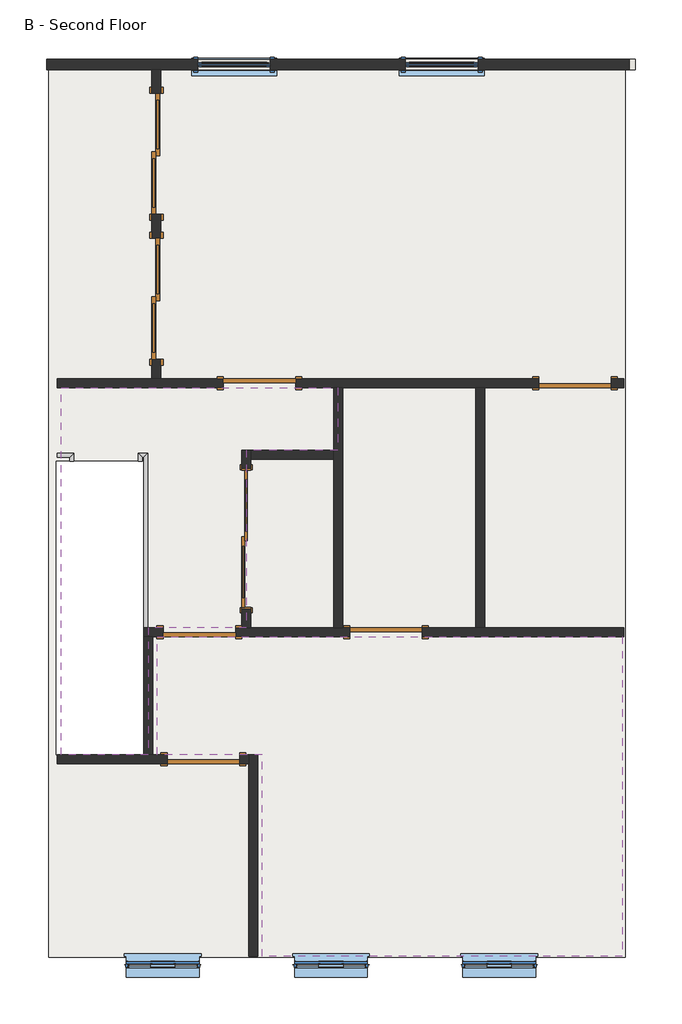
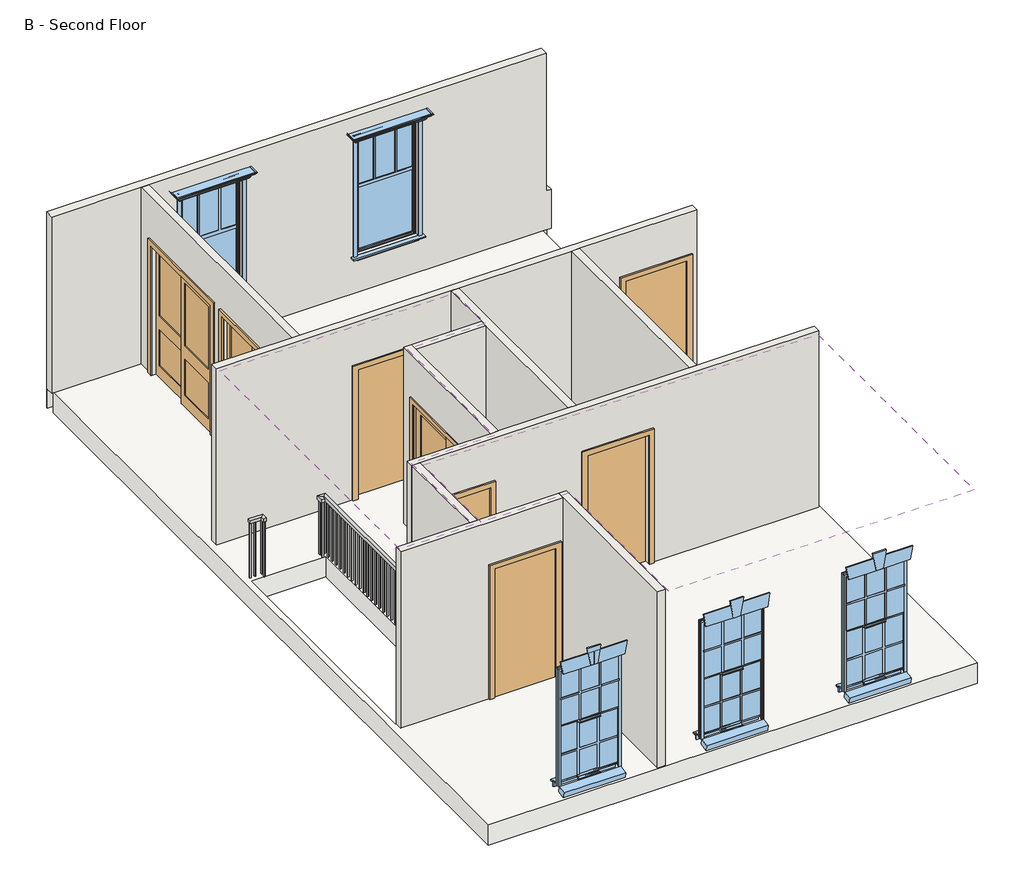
# One storey: 11 walls, 8 doors, 5 windows, 2 coverings, 2 railings, 1 slab.
"""IFC4 building model written with IfcOpenShell, lengths in millimetres."""

from ifc_helpers import new_model, si_unit, frame, origin, place, context, project, spatial, polyline, outline, extrude, faceted_brep, transform, mapped, element, save
from components import door_2e073e5e, door_5e62189b, door_17d80c48, door_2e7ec8be, craftsman_style_single_window_l_craftsman_style_single_78b914de, window_32c76565

model = new_model("IFC4")

# Units and contexts
model_context = context("Model", 3, world=origin())
ifc_project = project(units=[si_unit("LENGTHUNIT", "METRE", prefix="MILLI")], contexts=[model_context])

# Site, building, storey
site = spatial("IfcSite", under=ifc_project)
building = spatial("IfcBuilding", under=site)
storey = spatial("IfcBuildingStorey", under=building, Name="B - Second Floor", Elevation=3981.45)

# Coverings
placement = place(None, origin())
element("IfcCovering", 1, ObjectType="GWB on Furring", at=placement, inside=storey, context=model_context, shape_type="SweptSolid", body=[
    extrude(outline(polyline([(3167.5370514, -3096.8539462), (3167.5370514, -7122.7539462), (-1369.5379486, -7122.7539462), (-1369.5379486, -4582.7539462), (-2690.3379486, -4582.7539462), (-2690.3379486, -3096.8539462), (3167.5370514, -3096.8539462)])), frame((0.0, 0.0, 6699.25), z_axis=(0.0, 0.0, 1.0), x_axis=(1.0, 0.0, 0.0)), (0.0, 0.0, 1.0), 31.75),
])
element("IfcCovering", 2, ObjectType="GWB on Furring", at=placement, inside=storey, context=model_context, shape_type="SweptSolid", body=[
    extrude(outline(polyline([(-3896.8379486, -4582.7539462), (-3896.8379486, 40.0460538), (-413.8629486, 40.0460538), (-413.8629486, -747.3539462), (-1569.5629486, -747.3539462), (-1569.5629486, -2982.5539462), (-2804.6379486, -2982.5539462), (-2804.6379486, -4582.7539462), (-3896.8379486, -4582.7539462)])), frame((0.0, 0.0, 6699.25), z_axis=(0.0, 0.0, 1.0), x_axis=(1.0, 0.0, 0.0)), (0.0, 0.0, 1.0), 31.75),
])

# Doors
door_shape = door_2e073e5e(model_context)
element("IfcDoor", 3, ObjectType="Door-Interior-Double-Sliding-2_Panel-Wood : 68\" x 80\"", at=placement, inside=storey, context=model_context, shape_type="MappedRepresentation", body=[
    mapped(door_shape, transform((-1569.5629486, -1864.9539462, 3981.45), x_axis=(0.0, 1.0, 0.0), y_axis=(-1.0, 0.0, 0.0), z_axis=(0.0, 0.0, 1.0))),
])
door_2_shape = door_5e62189b(model_context)
element("IfcDoor", 4, ObjectType="Single-Flush : 36\" x 80\"", at=placement, inside=storey, context=model_context, shape_type="MappedRepresentation", body=[
    mapped(door_2_shape, transform((-2109.3129486, -4639.9039462, 3981.45), x_axis=(1.0, 0.0, 0.0), y_axis=(0.0, 1.0, 0.0), z_axis=(0.0, 0.0, 1.0))),
])
element("IfcDoor", 5, ObjectType="Single-Flush : 36\" x 80\"", at=placement, inside=storey, context=model_context, shape_type="MappedRepresentation", body=[
    mapped(door_2_shape, transform((-1402.8754486, 97.1960538, 3981.45), x_axis=(-1.0, 0.0, 0.0), y_axis=(0.0, -1.0, 0.0), z_axis=(0.0, 0.0, 1.0))),
])
element("IfcDoor", 6, ObjectType="Single-Flush : 36\" x 80\"", at=placement, inside=storey, context=model_context, shape_type="MappedRepresentation", body=[
    mapped(door_2_shape, transform((192.5620514, -3039.7039462, 3981.45), x_axis=(-1.0, 0.0, 0.0), y_axis=(0.0, -1.0, 0.0), z_axis=(0.0, 0.0, 1.0))),
])
element("IfcDoor", 7, ObjectType="Single-Flush : 36\" x 80\"", at=placement, inside=storey, context=model_context, shape_type="MappedRepresentation", body=[
    mapped(door_2_shape, transform((2570.6370514, 97.1960538, 3981.45), x_axis=(1.0, 0.0, 0.0), y_axis=(0.0, 1.0, 0.0), z_axis=(0.0, 0.0, 1.0))),
])
door_3_shape = door_17d80c48(model_context)
element("IfcDoor", 8, ObjectType="Single-Flush : 36\" x 80\"", at=placement, inside=storey, context=model_context, shape_type="MappedRepresentation", body=[
    mapped(door_3_shape, transform((-2160.1129486, -3039.7039462, 3981.45), x_axis=(-1.0, 0.0, 0.0), y_axis=(0.0, -1.0, 0.0), z_axis=(0.0, 0.0, 1.0))),
])
door_4_shape = door_2e7ec8be(model_context)
element("IfcDoor", 9, ObjectType="Sliding-Closet : 60\" x 80\"", at=placement, inside=storey, context=model_context, shape_type="MappedRepresentation", body=[
    mapped(door_4_shape, transform((-2572.8629486, 2986.4460538, 3981.45), x_axis=(0.0, 1.0, 0.0), y_axis=(-1.0, 0.0, 0.0), z_axis=(0.0, 0.0, 1.0))),
])
element("IfcDoor", 10, ObjectType="Sliding-Closet : 60\" x 80\"", at=placement, inside=storey, context=model_context, shape_type="MappedRepresentation", body=[
    mapped(door_4_shape, transform((-2572.8629486, 1157.6460538, 3981.45), x_axis=(0.0, 1.0, 0.0), y_axis=(-1.0, 0.0, 0.0), z_axis=(0.0, 0.0, 1.0))),
])

# Railings
element("IfcRailing", 11, ObjectType="Handrail - Rectangular", at=placement, inside=storey, context=model_context, shape_type="SolidModel", body=[
    faceted_brep([(-3950.8129486, -836.2539462, 4895.85), (-3950.8129486, -785.4539462, 4895.85), (-3950.8129486, -785.4539462, 4845.05), (-3950.8129486, -836.2539462, 4845.05), (-3792.0629486, -836.2539462, 4845.05), (-3792.0629486, -836.2539462, 4895.85), (-3741.2629486, -785.4539462, 4845.05), (-3741.2629486, -785.4539462, 4895.85), (-3792.0629486, -887.0539462, 4895.85), (-3792.0629486, -887.0539462, 4845.05), (-3741.2629486, -887.0539462, 4845.05), (-3741.2629486, -887.0539462, 4895.85)], [[[0, 1, 2, 3]], [[4, 5, 0, 3]], [[6, 4, 3, 2]], [[7, 6, 2, 1]], [[5, 7, 1, 0]], [[8, 9, 10, 11]], [[9, 8, 5, 4]], [[10, 9, 4, 6]], [[11, 10, 6, 7]], [[8, 11, 7, 5]]]),
    extrude(outline(polyline([(-3858.7379486, -801.3289462), (-3858.7379486, -820.3789462), (-3877.7879486, -820.3789462), (-3877.7879486, -801.3289462), (-3858.7379486, -801.3289462)])), frame((0.0, 0.0, 3981.45), z_axis=(0.0, 0.0, 1.0), x_axis=(1.0, 0.0, 0.0)), (0.0, 0.0, 1.0), 863.6),
    extrude(outline(polyline([(-3757.1379486, -820.3789462), (-3776.1879486, -820.3789462), (-3776.1879486, -801.3289462), (-3757.1379486, -801.3289462), (-3757.1379486, -820.3789462)])), frame((0.0, 0.0, 3981.45), z_axis=(0.0, 0.0, 1.0), x_axis=(1.0, 0.0, 0.0)), (0.0, 0.0, 1.0), 863.6),
    extrude(outline(polyline([(-3931.7629486, -801.3289462), (-3931.7629486, -820.3789462), (-3950.8129486, -820.3789462), (-3950.8129486, -801.3289462), (-3931.7629486, -801.3289462)])), frame((0.0, 0.0, 3981.45), z_axis=(0.0, 0.0, 1.0), x_axis=(1.0, 0.0, 0.0)), (0.0, 0.0, 1.0), 863.6),
    extrude(outline(polyline([(-3757.1379486, -887.0539462), (-3776.1879486, -887.0539462), (-3776.1879486, -868.0039462), (-3757.1379486, -868.0039462), (-3757.1379486, -887.0539462)])), frame((0.0, 0.0, 3981.45), z_axis=(0.0, 0.0, 1.0), x_axis=(1.0, 0.0, 0.0)), (0.0, 0.0, 1.0), 863.6),
])
element("IfcRailing", 12, ObjectType="Handrail - Rectangular", at=placement, inside=storey, context=model_context, shape_type="SolidModel", body=[
    faceted_brep([(-2928.4629486, -887.0539462, 4895.85), (-2928.4629486, -887.0539462, 4845.05), (-2877.6629486, -887.0539462, 4845.05), (-2877.6629486, -887.0539462, 4895.85), (-2928.4629486, -785.4539462, 4895.85), (-2928.4629486, -785.4539462, 4845.05), (-2877.6629486, -836.2539462, 4845.05), (-2877.6629486, -836.2539462, 4895.85), (-2810.2631638, -2982.5539462, 4895.85), (-2861.0631638, -2982.5539462, 4895.85), (-2861.0631638, -2982.5539462, 4845.05), (-2810.2631638, -2982.5539462, 4845.05), (-2810.2631638, -785.4539462, 4845.05), (-2810.2631638, -785.4539462, 4895.85), (-2861.0631638, -836.2539462, 4845.05), (-2861.0631638, -836.2539462, 4895.85)], [[[0, 1, 2, 3]], [[1, 0, 4, 5]], [[2, 1, 5, 6]], [[3, 2, 6, 7]], [[0, 3, 7, 4]], [[8, 9, 10, 11]], [[12, 13, 8, 11]], [[14, 12, 11, 10]], [[15, 14, 10, 9]], [[13, 15, 9, 8]], [[5, 4, 13, 12]], [[6, 5, 12, 14]], [[7, 6, 14, 15]], [[4, 7, 15, 13]]]),
    extrude(outline(polyline([(-2845.1881638, -2934.9289462), (-2826.1381638, -2934.9289462), (-2826.1381638, -2953.9789462), (-2845.1881638, -2953.9789462), (-2845.1881638, -2934.9289462)])), frame((0.0, 0.0, 3981.45), z_axis=(0.0, 0.0, 1.0), x_axis=(1.0, 0.0, 0.0)), (0.0, 0.0, 1.0), 863.6),
    extrude(outline(polyline([(-2845.1881638, -2833.3289462), (-2826.1381638, -2833.3289462), (-2826.1381638, -2852.3789462), (-2845.1881638, -2852.3789462), (-2845.1881638, -2833.3289462)])), frame((0.0, 0.0, 3981.45), z_axis=(0.0, 0.0, 1.0), x_axis=(1.0, 0.0, 0.0)), (0.0, 0.0, 1.0), 863.6),
    extrude(outline(polyline([(-2845.1881638, -2731.7289462), (-2826.1381638, -2731.7289462), (-2826.1381638, -2750.7789462), (-2845.1881638, -2750.7789462), (-2845.1881638, -2731.7289462)])), frame((0.0, 0.0, 3981.45), z_axis=(0.0, 0.0, 1.0), x_axis=(1.0, 0.0, 0.0)), (0.0, 0.0, 1.0), 863.6),
    extrude(outline(polyline([(-2845.1881638, -2630.1289462), (-2826.1381638, -2630.1289462), (-2826.1381638, -2649.1789462), (-2845.1881638, -2649.1789462), (-2845.1881638, -2630.1289462)])), frame((0.0, 0.0, 3981.45), z_axis=(0.0, 0.0, 1.0), x_axis=(1.0, 0.0, 0.0)), (0.0, 0.0, 1.0), 863.6),
    extrude(outline(polyline([(-2845.1881638, -2528.5289462), (-2826.1381638, -2528.5289462), (-2826.1381638, -2547.5789462), (-2845.1881638, -2547.5789462), (-2845.1881638, -2528.5289462)])), frame((0.0, 0.0, 3981.45), z_axis=(0.0, 0.0, 1.0), x_axis=(1.0, 0.0, 0.0)), (0.0, 0.0, 1.0), 863.6),
    extrude(outline(polyline([(-2845.1881638, -2426.9289462), (-2826.1381638, -2426.9289462), (-2826.1381638, -2445.9789462), (-2845.1881638, -2445.9789462), (-2845.1881638, -2426.9289462)])), frame((0.0, 0.0, 3981.45), z_axis=(0.0, 0.0, 1.0), x_axis=(1.0, 0.0, 0.0)), (0.0, 0.0, 1.0), 863.6),
    extrude(outline(polyline([(-2845.1881638, -2325.3289462), (-2826.1381638, -2325.3289462), (-2826.1381638, -2344.3789462), (-2845.1881638, -2344.3789462), (-2845.1881638, -2325.3289462)])), frame((0.0, 0.0, 3981.45), z_axis=(0.0, 0.0, 1.0), x_axis=(1.0, 0.0, 0.0)), (0.0, 0.0, 1.0), 863.6),
    extrude(outline(polyline([(-2845.1881638, -2223.7289462), (-2826.1381638, -2223.7289462), (-2826.1381638, -2242.7789462), (-2845.1881638, -2242.7789462), (-2845.1881638, -2223.7289462)])), frame((0.0, 0.0, 3981.45), z_axis=(0.0, 0.0, 1.0), x_axis=(1.0, 0.0, 0.0)), (0.0, 0.0, 1.0), 863.6),
    extrude(outline(polyline([(-2845.1881638, -2122.1289462), (-2826.1381638, -2122.1289462), (-2826.1381638, -2141.1789462), (-2845.1881638, -2141.1789462), (-2845.1881638, -2122.1289462)])), frame((0.0, 0.0, 3981.45), z_axis=(0.0, 0.0, 1.0), x_axis=(1.0, 0.0, 0.0)), (0.0, 0.0, 1.0), 863.6),
    extrude(outline(polyline([(-2845.1881638, -2020.5289462), (-2826.1381638, -2020.5289462), (-2826.1381638, -2039.5789462), (-2845.1881638, -2039.5789462), (-2845.1881638, -2020.5289462)])), frame((0.0, 0.0, 3981.45), z_axis=(0.0, 0.0, 1.0), x_axis=(1.0, 0.0, 0.0)), (0.0, 0.0, 1.0), 863.6),
    extrude(outline(polyline([(-2845.1881638, -1918.9289462), (-2826.1381638, -1918.9289462), (-2826.1381638, -1937.9789462), (-2845.1881638, -1937.9789462), (-2845.1881638, -1918.9289462)])), frame((0.0, 0.0, 3981.45), z_axis=(0.0, 0.0, 1.0), x_axis=(1.0, 0.0, 0.0)), (0.0, 0.0, 1.0), 863.6),
    extrude(outline(polyline([(-2845.1881638, -1817.3289462), (-2826.1381638, -1817.3289462), (-2826.1381638, -1836.3789462), (-2845.1881638, -1836.3789462), (-2845.1881638, -1817.3289462)])), frame((0.0, 0.0, 3981.45), z_axis=(0.0, 0.0, 1.0), x_axis=(1.0, 0.0, 0.0)), (0.0, 0.0, 1.0), 863.6),
    extrude(outline(polyline([(-2845.1881638, -1715.7289462), (-2826.1381638, -1715.7289462), (-2826.1381638, -1734.7789462), (-2845.1881638, -1734.7789462), (-2845.1881638, -1715.7289462)])), frame((0.0, 0.0, 3981.45), z_axis=(0.0, 0.0, 1.0), x_axis=(1.0, 0.0, 0.0)), (0.0, 0.0, 1.0), 863.6),
    extrude(outline(polyline([(-2845.1881638, -1614.1289462), (-2826.1381638, -1614.1289462), (-2826.1381638, -1633.1789462), (-2845.1881638, -1633.1789462), (-2845.1881638, -1614.1289462)])), frame((0.0, 0.0, 3981.45), z_axis=(0.0, 0.0, 1.0), x_axis=(1.0, 0.0, 0.0)), (0.0, 0.0, 1.0), 863.6),
    extrude(outline(polyline([(-2845.1881638, -1512.5289462), (-2826.1381638, -1512.5289462), (-2826.1381638, -1531.5789462), (-2845.1881638, -1531.5789462), (-2845.1881638, -1512.5289462)])), frame((0.0, 0.0, 3981.45), z_axis=(0.0, 0.0, 1.0), x_axis=(1.0, 0.0, 0.0)), (0.0, 0.0, 1.0), 863.6),
    extrude(outline(polyline([(-2845.1881638, -1410.9289462), (-2826.1381638, -1410.9289462), (-2826.1381638, -1429.9789462), (-2845.1881638, -1429.9789462), (-2845.1881638, -1410.9289462)])), frame((0.0, 0.0, 3981.45), z_axis=(0.0, 0.0, 1.0), x_axis=(1.0, 0.0, 0.0)), (0.0, 0.0, 1.0), 863.6),
    extrude(outline(polyline([(-2845.1881638, -1309.3289462), (-2826.1381638, -1309.3289462), (-2826.1381638, -1328.3789462), (-2845.1881638, -1328.3789462), (-2845.1881638, -1309.3289462)])), frame((0.0, 0.0, 3981.45), z_axis=(0.0, 0.0, 1.0), x_axis=(1.0, 0.0, 0.0)), (0.0, 0.0, 1.0), 863.6),
    extrude(outline(polyline([(-2845.1881638, -1207.7289462), (-2826.1381638, -1207.7289462), (-2826.1381638, -1226.7789462), (-2845.1881638, -1226.7789462), (-2845.1881638, -1207.7289462)])), frame((0.0, 0.0, 3981.45), z_axis=(0.0, 0.0, 1.0), x_axis=(1.0, 0.0, 0.0)), (0.0, 0.0, 1.0), 863.6),
    extrude(outline(polyline([(-2845.1881638, -1106.1289462), (-2826.1381638, -1106.1289462), (-2826.1381638, -1125.1789462), (-2845.1881638, -1125.1789462), (-2845.1881638, -1106.1289462)])), frame((0.0, 0.0, 3981.45), z_axis=(0.0, 0.0, 1.0), x_axis=(1.0, 0.0, 0.0)), (0.0, 0.0, 1.0), 863.6),
    extrude(outline(polyline([(-2845.1881638, -1004.5289462), (-2826.1381638, -1004.5289462), (-2826.1381638, -1023.5789462), (-2845.1881638, -1023.5789462), (-2845.1881638, -1004.5289462)])), frame((0.0, 0.0, 3981.45), z_axis=(0.0, 0.0, 1.0), x_axis=(1.0, 0.0, 0.0)), (0.0, 0.0, 1.0), 863.6),
    extrude(outline(polyline([(-2845.1881638, -902.9289462), (-2826.1381638, -902.9289462), (-2826.1381638, -921.9789462), (-2845.1881638, -921.9789462), (-2845.1881638, -902.9289462)])), frame((0.0, 0.0, 3981.45), z_axis=(0.0, 0.0, 1.0), x_axis=(1.0, 0.0, 0.0)), (0.0, 0.0, 1.0), 863.6),
    extrude(outline(polyline([(-2845.1881638, -820.3789462), (-2845.1881638, -801.3289462), (-2826.1381638, -801.3289462), (-2826.1381638, -820.3789462), (-2845.1881638, -820.3789462)])), frame((0.0, 0.0, 3981.45), z_axis=(0.0, 0.0, 1.0), x_axis=(1.0, 0.0, 0.0)), (0.0, 0.0, 1.0), 863.6),
    extrude(outline(polyline([(-2893.5379486, -820.3789462), (-2912.5879486, -820.3789462), (-2912.5879486, -801.3289462), (-2893.5379486, -801.3289462), (-2893.5379486, -820.3789462)])), frame((0.0, 0.0, 3981.45), z_axis=(0.0, 0.0, 1.0), x_axis=(1.0, 0.0, 0.0)), (0.0, 0.0, 1.0), 863.6),
    extrude(outline(polyline([(-2845.1881638, -2963.5039462), (-2826.1381638, -2963.5039462), (-2826.1381638, -2982.5539462), (-2845.1881638, -2982.5539462), (-2845.1881638, -2963.5039462)])), frame((0.0, 0.0, 3981.45), z_axis=(0.0, 0.0, 1.0), x_axis=(1.0, 0.0, 0.0)), (0.0, 0.0, 1.0), 863.6),
    extrude(outline(polyline([(-2893.5379486, -887.0539462), (-2912.5879486, -887.0539462), (-2912.5879486, -868.0039462), (-2893.5379486, -868.0039462), (-2893.5379486, -887.0539462)])), frame((0.0, 0.0, 3981.45), z_axis=(0.0, 0.0, 1.0), x_axis=(1.0, 0.0, 0.0)), (0.0, 0.0, 1.0), 863.6),
])

# Slab
element("IfcSlab", 13, ObjectType="Wood Truss  Joist 12\"", at=placement, inside=storey, context=model_context, shape_type="Brep", body=[
    faceted_brep([(-4055.5879486, 4053.2460538, 3660.775), (3183.4120514, 4053.2460538, 3660.775), (3205.6370514, 4053.2460538, 3660.775), (3205.6370514, 3497.6210538, 3660.775), (3205.6370514, -7122.7539462, 3660.775), (3205.6370514, -7135.4539462, 3660.775), (-4055.5879486, -7135.4539462, 3660.775), (-4055.5879486, -7122.7539462, 3660.775), (-4055.5879486, 3430.9460538, 3660.775), (-3960.3379486, -4582.7539462, 3660.775), (-3950.8129486, -4582.7539462, 3660.775), (-2858.6129486, -4582.7539462, 3660.775), (-2858.6129486, -887.0539462, 3660.775), (-3950.8129486, -887.0539462, 3660.775), (-3960.3379486, -887.0539462, 3660.775), (3205.6370514, 4053.2460538, 3981.45), (-4055.5879486, 4053.2460538, 3981.45), (-4055.5879486, 3497.6210538, 3981.45), (-4055.5879486, -7122.7539462, 3981.45), (-4055.5879486, -7135.4539462, 3981.45), (3205.6370514, -7135.4539462, 3981.45), (3205.6370514, -7122.7539462, 3981.45), (-3960.3379486, -887.0539462, 3981.45), (-3950.8129486, -887.0539462, 3981.45), (-2858.6129486, -887.0539462, 3981.45), (-2858.6129486, -4582.7539462, 3981.45), (-3950.8129486, -4582.7539462, 3981.45), (-3960.3379486, -4582.7539462, 3981.45), (3205.6370514, 4053.2460538, 3683.0)], [[[0, 1, 2, 3, 4, 5, 6, 7, 8], [9, 10, 11, 12, 13, 14]], [[15, 16, 17, 18, 19, 20, 21], [22, 23, 24, 25, 26, 27]], [[2, 1, 0, 16, 15, 28]], [[5, 4, 3, 2, 28, 15, 21, 20]], [[6, 5, 20, 19]], [[25, 11, 10, 9, 27, 26]], [[11, 25, 24, 12]], [[12, 24, 23, 22, 14, 13]], [[27, 9, 14, 22]], [[0, 8, 7, 6, 19, 18, 17, 16]]]),
])

# Walls
element("IfcWall", 14, ObjectType="Exterior - Wood Siding on Wood Stud", at=placement, inside=storey, context=model_context, shape_type="Brep", body=[
    faceted_brep([(-4084.1629486, 4173.8960538, 6750.05), (3256.4370514, 4173.8960538, 6750.05), (3256.4370514, 4173.8960538, 4591.05), (3329.4620514, 4173.8960538, 4591.05), (3329.4620514, 4173.8960538, 3676.65), (-4084.1629486, 4173.8960538, 3676.65), (-4084.1629486, 4173.8960538, 3981.45), (-4084.1629486, 4173.8960538, 6140.45), (1350.532409, 4173.8960538, 4565.65), (1350.532409, 4173.8960538, 6394.45), (436.132409, 4173.8960538, 6394.45), (436.132409, 4173.8960538, 4565.65), (-1263.8583061, 4173.8960538, 4565.65), (-1263.8583061, 4173.8960538, 6394.45), (-2178.2583061, 4173.8960538, 6394.45), (-2178.2583061, 4173.8960538, 4565.65), (3256.4370514, 4040.5460538, 6750.05), (-2642.7129486, 4040.5460538, 6750.05), (-2757.0129486, 4040.5460538, 6750.05), (-4084.1629486, 4040.5460538, 6750.05), (-4084.1629486, 4040.5460538, 6205.5375), (-4084.1629486, 4040.5460538, 6140.45), (-4084.1629486, 4040.5460538, 3981.45), (-4055.5879486, 4040.5460538, 3981.45), (-3950.8129486, 4040.5460538, 3981.45), (-2757.0129486, 4040.5460538, 3981.45), (-2642.7129486, 4040.5460538, 3981.45), (3183.4120514, 4040.5460538, 3981.45), (3205.6370514, 4040.5460538, 3981.45), (3329.4620514, 4040.5460538, 3981.45), (3329.4620514, 4040.5460538, 4146.55), (3329.4620514, 4040.5460538, 4591.05), (3256.4370514, 4040.5460538, 4591.05), (1350.532409, 4040.5460538, 6394.45), (1350.532409, 4040.5460538, 4565.65), (436.132409, 4040.5460538, 4565.65), (436.132409, 4040.5460538, 6394.45), (-1263.8583061, 4040.5460538, 6394.45), (-1263.8583061, 4040.5460538, 4565.65), (-2178.2583061, 4040.5460538, 4565.65), (-2178.2583061, 4040.5460538, 6394.45), (-4084.1629486, 4154.8460538, 3676.65), (-4084.1629486, 4154.8460538, 3981.45), (3329.4620514, 4154.8460538, 3981.45), (3329.4620514, 4107.2210538, 3981.45), (3329.4620514, 4154.8460538, 3676.65), (3256.4370514, 4154.8460538, 4591.05)], [[[0, 1, 2, 3, 4, 5, 6, 7], [8, 9, 10, 11], [12, 13, 14, 15]], [[16, 17, 18, 19, 20, 21, 22, 23, 24, 25, 26, 27, 28, 29, 30, 31, 32], [33, 34, 35, 36], [37, 38, 39, 40]], [[1, 0, 19, 18, 17, 16]], [[19, 0, 7, 6, 5, 41, 42, 22, 21, 20]], [[22, 42, 43, 44, 29, 28, 27, 26, 25, 24, 23]], [[43, 42, 41, 45]], [[5, 4, 45, 41]], [[34, 33, 9, 8]], [[35, 34, 8, 11]], [[36, 35, 11, 10]], [[33, 36, 10, 9]], [[38, 37, 13, 12]], [[39, 38, 12, 15]], [[40, 39, 15, 14]], [[37, 40, 14, 13]], [[1, 16, 32, 46, 2]], [[29, 44, 43, 45, 4, 3, 31, 30]], [[2, 46, 32, 31, 3]]]),
])
element("IfcWall", 15, ObjectType="Interior - 4 1/2\" Partition", at=placement, inside=storey, context=model_context, shape_type="Brep", body=[
    faceted_brep([(-1702.9129486, -3096.8539462, 3981.45), (-264.6379486, -3096.8539462, 3981.45), (-264.6379486, -3096.8539462, 6013.45), (649.7620514, -3096.8539462, 6013.45), (649.7620514, -3096.8539462, 3981.45), (3183.4120514, -3096.8539462, 3981.45), (3183.4120514, -3096.8539462, 6750.05), (-2744.3129486, -3096.8539462, 6750.05), (-2858.6129486, -3096.8539462, 6750.05), (-2858.6129486, -3096.8539462, 3981.45), (-2744.3129486, -3096.8539462, 3981.45), (-2617.3129486, -3096.8539462, 3981.45), (-2617.3129486, -3096.8539462, 6013.45), (-1702.9129486, -3096.8539462, 6013.45), (-264.6379486, -2982.5539462, 6013.45), (-264.6379486, -2982.5539462, 3981.45), (-353.5379486, -2982.5539462, 3981.45), (-467.8379486, -2982.5539462, 3981.45), (-1509.2379486, -2982.5539462, 3981.45), (-1623.5379486, -2982.5539462, 3981.45), (-1702.9129486, -2982.5539462, 3981.45), (-1702.9129486, -2982.5539462, 6013.45), (-2617.3129486, -2982.5539462, 6013.45), (-2617.3129486, -2982.5539462, 3981.45), (-2858.6129486, -2982.5539462, 3981.45), (-2858.6129486, -2982.5539462, 6750.05), (-1623.5379486, -2982.5539462, 6750.05), (-1509.2379486, -2982.5539462, 6750.05), (-467.8379486, -2982.5539462, 6750.05), (-353.5379486, -2982.5539462, 6750.05), (1322.8620514, -2982.5539462, 6750.05), (1437.1620514, -2982.5539462, 6750.05), (3183.4120514, -2982.5539462, 6750.05), (3183.4120514, -2982.5539462, 3981.45), (1437.1620514, -2982.5539462, 3981.45), (1322.8620514, -2982.5539462, 3981.45), (649.7620514, -2982.5539462, 3981.45), (649.7620514, -2982.5539462, 6013.45)], [[[0, 1, 2, 3, 4, 5, 6, 7, 8, 9, 10, 11, 12, 13]], [[14, 15, 16, 17, 18, 19, 20, 21, 22, 23, 24, 25, 26, 27, 28, 29, 30, 31, 32, 33, 34, 35, 36, 37]], [[24, 23, 11, 10, 9]], [[36, 35, 34, 33, 5, 4]], [[20, 19, 18, 17, 16, 15, 1, 0]], [[8, 7, 6, 32, 31, 30, 29, 28, 27, 26, 25]], [[12, 11, 23, 22]], [[13, 12, 22, 21]], [[0, 13, 21, 20]], [[2, 1, 15, 14]], [[3, 2, 14, 37]], [[4, 3, 37, 36]], [[9, 8, 25, 24]], [[6, 5, 33, 32]]]),
])
element("IfcWall", 16, ObjectType="Interior - 4 1/2\" Partition", at=placement, inside=storey, context=model_context, shape_type="Brep", body=[
    faceted_brep([(3183.4120514, 154.3460538, 3981.45), (3027.8370514, 154.3460538, 3981.45), (3027.8370514, 154.3460538, 6013.45), (2113.4370514, 154.3460538, 6013.45), (2113.4370514, 154.3460538, 3981.45), (-945.6754486, 154.3460538, 3981.45), (-945.6754486, 154.3460538, 6013.45), (-1860.0754486, 154.3460538, 6013.45), (-1860.0754486, 154.3460538, 3981.45), (-2642.7129486, 154.3460538, 3981.45), (-2757.0129486, 154.3460538, 3981.45), (-3950.8129486, 154.3460538, 3981.45), (-3950.8129486, 154.3460538, 6750.05), (-2757.0129486, 154.3460538, 6750.05), (-2642.7129486, 154.3460538, 6750.05), (3183.4120514, 154.3460538, 6750.05), (3027.8370514, 40.0460538, 6013.45), (3027.8370514, 40.0460538, 3981.45), (3183.4120514, 40.0460538, 3981.45), (3183.4120514, 40.0460538, 6750.05), (1437.1620514, 40.0460538, 6750.05), (1322.8620514, 40.0460538, 6750.05), (-353.5379486, 40.0460538, 6750.05), (-467.8379486, 40.0460538, 6750.05), (-3950.8129486, 40.0460538, 6750.05), (-3950.8129486, 40.0460538, 3981.45), (-1860.0754486, 40.0460538, 3981.45), (-1860.0754486, 40.0460538, 6013.45), (-945.6754486, 40.0460538, 6013.45), (-945.6754486, 40.0460538, 3981.45), (-467.8379486, 40.0460538, 3981.45), (-353.5379486, 40.0460538, 3981.45), (1322.8620514, 40.0460538, 3981.45), (1437.1620514, 40.0460538, 3981.45), (2113.4370514, 40.0460538, 3981.45), (2113.4370514, 40.0460538, 6013.45)], [[[0, 1, 2, 3, 4, 5, 6, 7, 8, 9, 10, 11, 12, 13, 14, 15]], [[16, 17, 18, 19, 20, 21, 22, 23, 24, 25, 26, 27, 28, 29, 30, 31, 32, 33, 34, 35]], [[11, 10, 9, 8, 26, 25]], [[18, 17, 1, 0]], [[34, 33, 32, 31, 30, 29, 5, 4]], [[15, 14, 13, 12, 24, 23, 22, 21, 20, 19]], [[27, 26, 8, 7]], [[28, 27, 7, 6]], [[29, 28, 6, 5]], [[2, 1, 17, 16]], [[3, 2, 16, 35]], [[4, 3, 35, 34]], [[0, 15, 19, 18]], [[11, 25, 24, 12]]]),
])
element("IfcWall", 17, ObjectType="Interior - 4 1/2\" Partition", at=placement, inside=storey, context=model_context, shape_type="SweptSolid", body=[
    extrude(outline(polyline([(154.3460538, 6750.05), (4040.5460538, 6750.05), (4040.5460538, 3981.45), (3748.4460538, 3981.45), (3748.4460538, 6013.45), (2224.4460538, 6013.45), (2224.4460538, 3981.45), (1919.6460538, 3981.45), (1919.6460538, 6013.45), (395.6460538, 6013.45), (395.6460538, 3981.45), (154.3460538, 3981.45), (154.3460538, 6750.05)])), frame((-2757.0129486, 0.0, 0.0), z_axis=(1.0, 0.0, 0.0), x_axis=(0.0, 1.0, 0.0)), (0.0, 0.0, 1.0), 114.3),
])
element("IfcWall", 18, ObjectType="Interior - 4 1/2\" Partition", at=placement, inside=storey, context=model_context, shape_type="SweptSolid", body=[
    extrude(outline(polyline([(1322.8620514, -2982.5539462), (1322.8620514, 40.0460538), (1437.1620514, 40.0460538), (1437.1620514, -2982.5539462), (1322.8620514, -2982.5539462)])), frame((0.0, 0.0, 3981.45), z_axis=(0.0, 0.0, 1.0), x_axis=(1.0, 0.0, 0.0)), (0.0, 0.0, 1.0), 2768.6),
])
element("IfcWall", 19, ObjectType="Interior - 4 1/2\" Partition", at=placement, inside=storey, context=model_context, shape_type="Brep", body=[
    faceted_brep([(-467.8379486, 40.0460538, 3981.45), (-467.8379486, -747.3539462, 3981.45), (-467.8379486, -861.6539462, 3981.45), (-467.8379486, -2982.5539462, 3981.45), (-467.8379486, -2982.5539462, 6750.05), (-467.8379486, -861.6539462, 6750.05), (-467.8379486, -747.3539462, 6750.05), (-467.8379486, 40.0460538, 6750.05), (-353.5379486, 40.0460538, 3981.45), (-353.5379486, 40.0460538, 6750.05), (-353.5379486, -2982.5539462, 6750.05), (-353.5379486, -2982.5539462, 3981.45)], [[[0, 1, 2, 3, 4, 5, 6, 7]], [[8, 9, 10, 11]], [[3, 2, 1, 0, 8, 11]], [[7, 6, 5, 4, 10, 9]], [[4, 3, 11, 10]], [[0, 7, 9, 8]]]),
])
element("IfcWall", 20, ObjectType="Interior - 4 1/2\" Partition", at=placement, inside=storey, context=model_context, shape_type="Brep", body=[
    faceted_brep([(-1509.2379486, -747.3539462, 6750.05), (-1509.2379486, -861.6539462, 6750.05), (-1509.2379486, -2982.5539462, 6750.05), (-1509.2379486, -2982.5539462, 3981.45), (-1509.2379486, -2753.9539462, 3981.45), (-1509.2379486, -2753.9539462, 6038.85), (-1509.2379486, -975.9539462, 6038.85), (-1509.2379486, -975.9539462, 3981.45), (-1509.2379486, -861.6539462, 3981.45), (-1509.2379486, -747.3539462, 3981.45), (-1623.5379486, -2982.5539462, 6750.05), (-1623.5379486, -747.3539462, 6750.05), (-1623.5379486, -747.3539462, 3981.45), (-1623.5379486, -975.9539462, 3981.45), (-1623.5379486, -975.9539462, 6038.85), (-1623.5379486, -2753.9539462, 6038.85), (-1623.5379486, -2753.9539462, 3981.45), (-1623.5379486, -2982.5539462, 3981.45)], [[[0, 1, 2, 3, 4, 5, 6, 7, 8, 9]], [[10, 11, 12, 13, 14, 15, 16, 17]], [[3, 17, 16, 4]], [[12, 9, 8, 7, 13]], [[2, 1, 0, 11, 10]], [[3, 2, 10, 17]], [[0, 9, 12, 11]], [[6, 14, 13, 7]], [[14, 6, 5, 15]], [[15, 5, 4, 16]]]),
])
element("IfcWall", 21, ObjectType="Interior - 4 1/2\" Partition", at=placement, inside=storey, context=model_context, shape_type="SweptSolid", body=[
    extrude(outline(polyline([(-467.8379486, -861.6539462), (-1509.2379486, -861.6539462), (-1509.2379486, -747.3539462), (-467.8379486, -747.3539462), (-467.8379486, -861.6539462)])), frame((0.0, 0.0, 3981.45), z_axis=(0.0, 0.0, 1.0), x_axis=(1.0, 0.0, 0.0)), (0.0, 0.0, 1.0), 2768.6),
])
element("IfcWall", 22, ObjectType="Interior - 4 1/2\" Partition", at=placement, inside=storey, context=model_context, shape_type="Brep", body=[
    faceted_brep([(-1423.5129486, -7122.7539462, 3981.45), (-1423.5129486, -4582.7539462, 3981.45), (-1423.5129486, -4582.7539462, 6750.05), (-1423.5129486, -7122.7539462, 6750.05), (-1537.8129486, -7122.7539462, 3981.45), (-1537.8129486, -7122.7539462, 6750.05), (-1537.8129486, -4697.0539462, 6750.05), (-1537.8129486, -4582.7539462, 6750.05), (-1537.8129486, -4582.7539462, 3981.45), (-1537.8129486, -4697.0539462, 3981.45)], [[[0, 1, 2, 3]], [[4, 5, 6, 7, 8, 9]], [[1, 0, 4, 9, 8]], [[3, 2, 7, 6, 5]], [[2, 1, 8, 7]], [[0, 3, 5, 4]]]),
])
element("IfcWall", 23, ObjectType="Interior - 4 1/2\" Partition", at=placement, inside=storey, context=model_context, shape_type="Brep", body=[
    faceted_brep([(-1537.8129486, -4582.7539462, 3981.45), (-1652.1129486, -4582.7539462, 3981.45), (-1652.1129486, -4582.7539462, 6013.45), (-2566.5129486, -4582.7539462, 6013.45), (-2566.5129486, -4582.7539462, 3981.45), (-2744.3129486, -4582.7539462, 3981.45), (-2858.6129486, -4582.7539462, 3981.45), (-3950.8129486, -4582.7539462, 3981.45), (-3950.8129486, -4582.7539462, 6750.05), (-2858.6129486, -4582.7539462, 6750.05), (-2744.3129486, -4582.7539462, 6750.05), (-1537.8129486, -4582.7539462, 6750.05), (-1652.1129486, -4697.0539462, 6013.45), (-1652.1129486, -4697.0539462, 3981.45), (-1537.8129486, -4697.0539462, 3981.45), (-1537.8129486, -4697.0539462, 6750.05), (-3950.8129486, -4697.0539462, 6750.05), (-3950.8129486, -4697.0539462, 3981.45), (-2566.5129486, -4697.0539462, 3981.45), (-2566.5129486, -4697.0539462, 6013.45)], [[[0, 1, 2, 3, 4, 5, 6, 7, 8, 9, 10, 11]], [[12, 13, 14, 15, 16, 17, 18, 19]], [[18, 17, 7, 6, 5, 4]], [[14, 13, 1, 0]], [[11, 10, 9, 8, 16, 15]], [[0, 11, 15, 14]], [[2, 1, 13, 12]], [[3, 2, 12, 19]], [[4, 3, 19, 18]], [[7, 17, 16, 8]]]),
])
element("IfcWall", 24, ObjectType="Interior - 4 1/2\" Partition", at=placement, inside=storey, context=model_context, shape_type="SweptSolid", body=[
    extrude(outline(polyline([(-2744.3129486, -3096.8539462), (-2744.3129486, -4582.7539462), (-2858.6129486, -4582.7539462), (-2858.6129486, -3096.8539462), (-2744.3129486, -3096.8539462)])), frame((0.0, 0.0, 3981.45), z_axis=(0.0, 0.0, 1.0), x_axis=(1.0, 0.0, 0.0)), (0.0, 0.0, 1.0), 2768.6),
])

# Windows
craftsman_style_single_window_l_craftsman_style_single_shape = craftsman_style_single_window_l_craftsman_style_single_78b914de(model_context)
element("IfcWindow", 25, ObjectType="Craftsman_Style_Single_Window_L : Craftsman_Style_Single_Window_L", at=placement, inside=storey, context=model_context, shape_type="MappedRepresentation", body=[
    mapped(craftsman_style_single_window_l_craftsman_style_single_shape, transform((893.332409, 4107.2210538, 3651.25), x_axis=(1.0, 0.0, 0.0), y_axis=(0.0, 1.0, 0.0), z_axis=(0.0, 0.0, 1.0))),
])
element("IfcWindow", 26, ObjectType="Craftsman_Style_Single_Window_L : Craftsman_Style_Single_Window_L", at=placement, inside=storey, context=model_context, shape_type="MappedRepresentation", body=[
    mapped(craftsman_style_single_window_l_craftsman_style_single_shape, transform((-1721.0583061, 4107.2210538, 3651.25), x_axis=(1.0, 0.0, 0.0), y_axis=(0.0, 1.0, 0.0), z_axis=(0.0, 0.0, 1.0))),
])
window_shape = window_32c76565(model_context)
element("IfcWindow", 27, ObjectType="Single_Hung_Aluminum_Window_at_Brick_L : 36\"x72\"", at=placement, inside=storey, context=model_context, shape_type="MappedRepresentation", body=[
    mapped(window_shape, transform((1464.578409, -7238.6414462, 3702.05), x_axis=(-1.0, 0.0, 0.0), y_axis=(0.0, -1.0, 0.0), z_axis=(0.0, 0.0, 1.0))),
])
element("IfcWindow", 28, ObjectType="Single_Hung_Aluminum_Window_at_Brick_L : 36\"x72\"", at=placement, inside=storey, context=model_context, shape_type="MappedRepresentation", body=[
    mapped(window_shape, transform((-2772.680876, -7238.6414462, 3702.05), x_axis=(-1.0, 0.0, 0.0), y_axis=(0.0, -1.0, 0.0), z_axis=(0.0, 0.0, 1.0))),
])
element("IfcWindow", 29, ObjectType="Single_Hung_Aluminum_Window_at_Brick_L : 36\"x72\"", at=placement, inside=storey, context=model_context, shape_type="MappedRepresentation", body=[
    mapped(window_shape, transform((-654.0512335, -7238.6414462, 3702.05), x_axis=(-1.0, 0.0, 0.0), y_axis=(0.0, -1.0, 0.0), z_axis=(0.0, 0.0, 1.0))),
])

save(model, "model.ifc")
